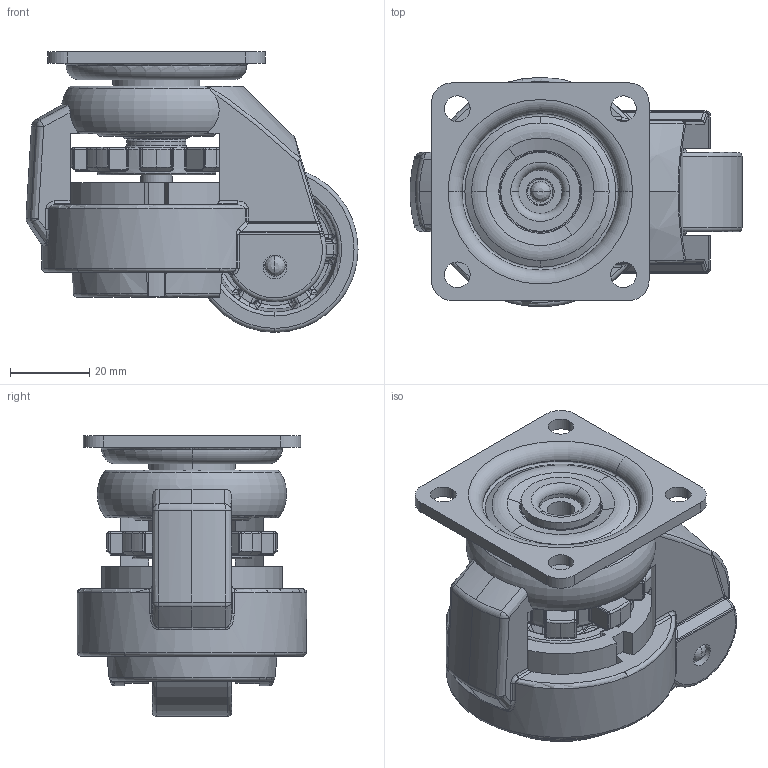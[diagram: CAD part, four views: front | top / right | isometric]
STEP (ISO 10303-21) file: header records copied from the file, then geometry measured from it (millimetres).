
FILE_DESCRIPTION (( 'STEP AP203' ), '1' );
FILE_NAME ('23-R1301-40F11.STEP', '2023-03-06T03:50:29', ( 'amidn' ), ( '' ), 'SwSTEP 2.0', 'SolidWorks 2018', '' );
FILE_SCHEMA (( 'CONFIG_CONTROL_DESIGN' ));
Length unit declared in the file: millimetre
Products named in the file (1): 23-R1301-40F11
Bounding box: 83.96 x 57.99 x 71 mm (x, y, z)
Volume: 121471.1 mm3; surface area: 51014 mm2
Topology: 4 solids, 4 shells, 1227 faces, 3133 edges, 1900 vertices
Faces by surface type: cylinder 478, bspline 308, plane 214, torus 115, cone 82, sphere 30
Entity records: 53311 total; most frequent: CARTESIAN_POINT 25720, ORIENTED_EDGE 6202, DIRECTION 5314, EDGE_CURVE 3101, AXIS2_PLACEMENT_3D 2196, VERTEX_POINT 1896, CIRCLE 1276, EDGE_LOOP 1271
